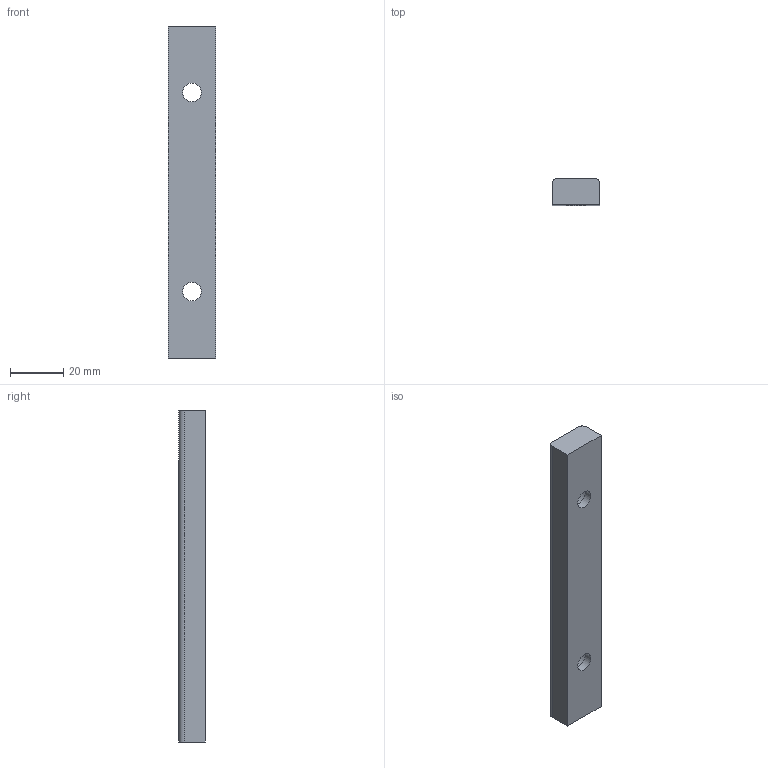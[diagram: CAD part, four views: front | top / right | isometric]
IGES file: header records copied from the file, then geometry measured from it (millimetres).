
Start section: Data from Parasolid IGES Translator 20.0.26, Copyright(c) 2006 Siemens P LM Software. All Rights Reserved.
Global section: file name: G220-01-018-125.igs; native system: By Siemens PLM Incorporated; preprocessor: XPlus GENERIC/IGES 20.0.26; author: Noname; organization: Noname; date: 20190705.150407; units: millimetre
Bounding box: 18 x 10 x 125 mm (x, y, z)
Surface area: 7603.8 mm2 (no closed solid volume)
Topology: 0 solids, 0 shells, 14 faces, 60 edges, 55 vertices
Faces by surface type: extrusion 8, revolution 6
